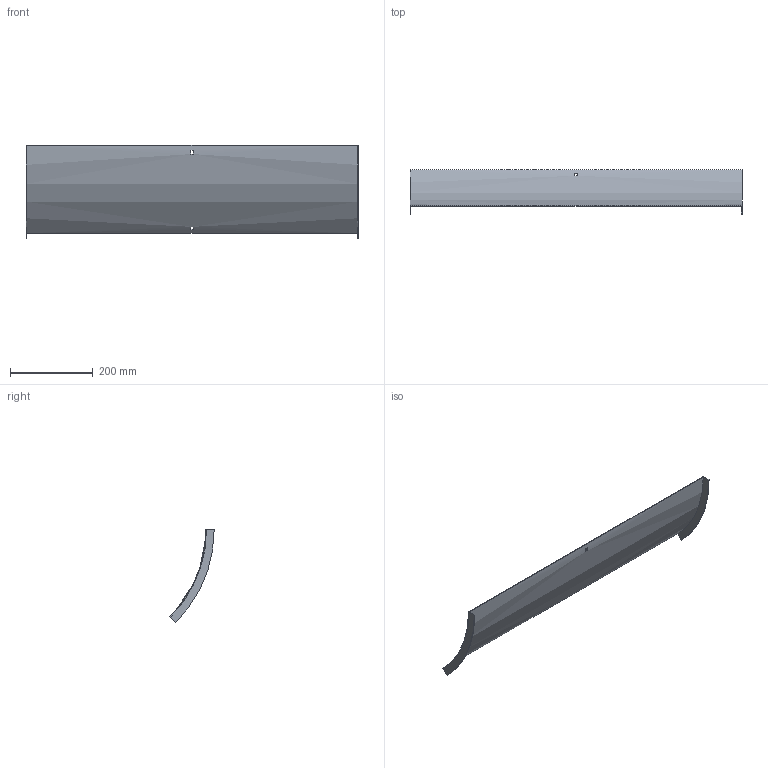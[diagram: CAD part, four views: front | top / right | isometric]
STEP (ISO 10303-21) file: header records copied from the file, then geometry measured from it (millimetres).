
FILE_DESCRIPTION (( 'STEP AP214' ), '1' );
FILE_NAME ('B2X31N3R800X.step', '2025-03-20T09:42:28', ( '' ), ( '' ), 'SwSTEP 2.0', 'SolidWorks 2023', '' );
FILE_SCHEMA (( 'AUTOMOTIVE_DESIGN' ));
Length unit declared in the file: millimetre
Products named in the file (1): B2X31N3R800X
Bounding box: 803 x 107.43 x 225.21 mm (x, y, z)
Volume: 296398.4 mm3; surface area: 398559.7 mm2
Topology: 1 solids, 1 shells, 18 faces, 48 edges, 32 vertices
Faces by surface type: plane 14, cylinder 4
Entity records: 599 total; most frequent: DIRECTION 102, CARTESIAN_POINT 99, ORIENTED_EDGE 96, EDGE_CURVE 48, AXIS2_PLACEMENT_3D 35, LINE 32, VERTEX_POINT 32, VECTOR 32
